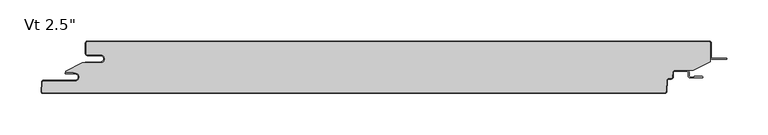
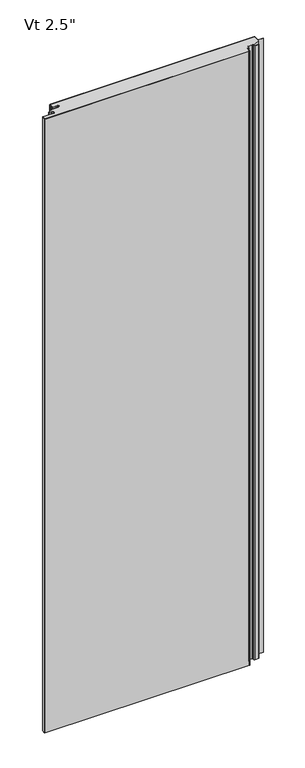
"""IFC4 building model written with IfcOpenShell, lengths in millimetres: plate geometry."""

from ifc_helpers import new_model, si_unit, point, frame, frame_2d, origin, origin_with_axes, place, context, project, spatial, polyline, circle_curve, ellipse_curve, trimmed, segment, composite_curve, outline, extrude, source, transform, mapped, element, save
from ifc_brep_helpers import plane_surface, cylinder_surface, revolved_surface, extruded_surface, advanced_brep


def plate_6fc24e39(model_context):
    return source(origin(), model_context, "Body", "SolidModel", [
        extrude(outline(composite_curve([segment(polyline([(-362.0437502, -16.4625), (-377.9187502, -16.4625)]), True, "CONTINUOUS"), segment(trimmed(circle_curve(frame_2d((-377.9187502, -15.08125)), 1.38125), [point((-377.9187502, -16.4625))], [point((-379.3000002, -15.08125))], False, "CARTESIAN"), True, "CONTINUOUS"), segment(polyline([(-379.3000002, -15.08125), (-379.3000002, -2.38125)]), True, "CONTINUOUS"), segment(trimmed(circle_curve(frame_2d((-377.9187502, -2.38125)), 1.38125), [point((-379.3000002, -2.38125))], [point((-377.9187502, -1.0))], False, "CARTESIAN"), True, "CONTINUOUS"), segment(polyline([(-377.9187502, -1.0), (377.7312498, -1.0)]), True, "CONTINUOUS"), segment(trimmed(circle_curve(frame_2d((377.7312498, -2.38125)), 1.38125), [point((377.7312498, -1.0))], [point((379.1124998, -2.38125))], False, "CARTESIAN"), True, "CONTINUOUS"), segment(polyline([(379.1124998, -2.38125), (379.1124998, -24.9057308), (358.2955432, -35.5125), (335.8540781, -35.5125)]), True, "CONTINUOUS"), segment(trimmed(circle_curve(frame_2d((335.8540781, -38.1)), 2.5875), [point((335.8540781, -35.5125))], [point((333.2701242, -37.9645807))], True, "CARTESIAN"), True, "CONTINUOUS"), segment(polyline([(333.2701242, -37.9645807), (332.9680479, -43.728539)]), True, "CONTINUOUS"), segment(trimmed(circle_curve(frame_2d((331.5886909, -43.65625)), 1.38125), [point((332.9680479, -43.728539))], [point((331.5886909, -45.0375))], False, "CARTESIAN"), True, "CONTINUOUS"), segment(polyline([(331.5886909, -45.0375), (328.5448845, -45.0375)]), True, "CONTINUOUS"), segment(trimmed(circle_curve(frame_2d((328.5448845, -47.625)), 2.5875), [point((328.5448845, -45.0375))], [point((325.9609306, -47.4895807))], True, "CARTESIAN"), True, "CONTINUOUS"), segment(polyline([(325.9609306, -47.4895807), (325.2428676, -61.191039)]), True, "CONTINUOUS"), segment(trimmed(circle_curve(frame_2d((323.8635105, -61.11875)), 1.38125), [point((325.2428676, -61.191039))], [point((323.8635105, -62.5))], False, "CARTESIAN"), True, "CONTINUOUS"), segment(polyline([(323.8635105, -62.5), (-431.7799537, -62.5)]), True, "CONTINUOUS"), segment(trimmed(circle_curve(frame_2d((-431.7799537, -61.11875)), 1.38125), [point((-431.7799537, -62.5))], [point((-433.1593107, -61.046461))], False, "CARTESIAN"), True, "CONTINUOUS"), segment(polyline([(-433.1593107, -61.046461), (-432.5769293, -49.933961)]), True, "CONTINUOUS"), segment(trimmed(circle_curve(frame_2d((-431.1975722, -50.00625)), 1.38125), [point((-432.5769293, -49.933961))], [point((-431.1975722, -48.625))], False, "CARTESIAN"), True, "CONTINUOUS"), segment(polyline([(-431.1975722, -48.625), (-393.0142676, -48.625)]), True, "CONTINUOUS"), segment(trimmed(circle_curve(frame_2d((-393.0142676, -43.65625)), 4.96875), [point((-393.0142676, -48.625))], [point((-393.0142676, -38.6875))], True, "CARTESIAN"), True, "CONTINUOUS"), segment(polyline([(-393.0142676, -38.6875), (-394.6017676, -38.89375), (-394.6017676, -38.1), (-404.1125002, -38.1), (-404.1125002, -36.5326309), (-384.2260924, -26.4), (-362.0437502, -26.4)]), True, "CONTINUOUS"), segment(trimmed(circle_curve(frame_2d((-362.0437502, -21.43125)), 4.96875), [point((-362.0437502, -26.4))], [point((-362.0437502, -16.4625))], True, "CARTESIAN"), True, "CONTINUOUS")], self_intersect=False)), origin_with_axes(), (0.0, 0.0, 1.0), 2400.0),
        extrude(outline(composite_curve([segment(polyline([(-380.3000002, -25.4), (-362.0437502, -25.4)]), True, "CONTINUOUS"), segment(trimmed(circle_curve(frame_2d((-362.0437502, -21.43125)), 3.96875), [point((-362.0437502, -25.4))], [point((-362.0437502, -17.4625))], True, "CARTESIAN"), True, "CONTINUOUS"), segment(polyline([(-362.0437502, -17.4625), (-377.9187502, -17.4625)]), True, "CONTINUOUS"), segment(trimmed(circle_curve(frame_2d((-377.9187502, -15.08125)), 2.38125), [point((-377.9187502, -17.4625))], [point((-380.3000002, -15.08125))], False, "CARTESIAN"), True, "CONTINUOUS"), segment(polyline([(-380.3000002, -15.08125), (-380.3000002, -2.38125)]), True, "CONTINUOUS"), segment(trimmed(circle_curve(frame_2d((-377.9187502, -2.38125)), 2.38125), [point((-380.3000002, -2.38125))], [point((-377.9187502, 0.0))], False, "CARTESIAN"), True, "CONTINUOUS"), segment(polyline([(-377.9187502, 0.0), (377.7312498, 0.0)]), True, "CONTINUOUS"), segment(trimmed(circle_curve(frame_2d((377.7312498, -2.38125)), 2.38125), [point((377.7312498, 0.0))], [point((380.1124998, -2.38125))], False, "CARTESIAN"), True, "CONTINUOUS"), segment(polyline([(380.1124998, -2.38125), (380.1124998, -19.446875)]), True, "CONTINUOUS"), segment(trimmed(circle_curve(frame_2d((381.6999998, -19.446875)), 1.5875), [point((380.1124998, -19.446875))], [point((381.6999998, -21.034375))], True, "CARTESIAN"), True, "CONTINUOUS"), segment(polyline([(381.6999998, -21.034375), (399.1624998, -21.034375), (399.1624998, -22.034375), (381.6999998, -22.034375)]), True, "CONTINUOUS"), segment(trimmed(circle_curve(frame_2d((381.6999998, -19.446875)), 2.5875), [point((381.6999998, -22.034375))], [point((379.1124998, -19.446875))], False, "CARTESIAN"), True, "CONTINUOUS"), segment(polyline([(379.1124998, -19.446875), (379.1124998, -2.38125)]), True, "CONTINUOUS"), segment(trimmed(circle_curve(frame_2d((377.7312498, -2.38125)), 1.38125), [point((379.1124998, -2.38125))], [point((377.7312498, -1.0))], True, "CARTESIAN"), True, "CONTINUOUS"), segment(polyline([(377.7312498, -1.0), (-377.9187502, -1.0)]), True, "CONTINUOUS"), segment(trimmed(circle_curve(frame_2d((-377.9187502, -2.38125)), 1.38125), [point((-377.9187502, -1.0))], [point((-379.3000002, -2.38125))], True, "CARTESIAN"), True, "CONTINUOUS"), segment(polyline([(-379.3000002, -2.38125), (-379.3000002, -15.08125)]), True, "CONTINUOUS"), segment(trimmed(circle_curve(frame_2d((-377.9187502, -15.08125)), 1.38125), [point((-379.3000002, -15.08125))], [point((-377.9187502, -16.4625))], True, "CARTESIAN"), True, "CONTINUOUS"), segment(polyline([(-377.9187502, -16.4625), (-362.0437502, -16.4625)]), True, "CONTINUOUS"), segment(trimmed(circle_curve(frame_2d((-362.0437502, -21.43125)), 4.96875), [point((-362.0437502, -16.4625))], [point((-362.0437502, -26.4))], False, "CARTESIAN"), True, "CONTINUOUS"), segment(polyline([(-362.0437502, -26.4), (-380.3000002, -26.4), (-380.3000002, -25.4)]), True, "CONTINUOUS")], self_intersect=False)), origin_with_axes(), (0.0, 0.0, 1.0), 2400.0),
        advanced_brep(
        [(-404.3252051, -38.1, 2400.0), (-404.3252051, -39.6875, 2400.0), (-393.0142676, -39.6875, 2400.0), (-393.0142676, -47.625, 2400.0), (-431.1975722, -47.625, 2400.0), (-433.5755588, -49.881625, 2400.0), (-434.1579402, -60.994125, 2400.0), (-431.7799537, -63.5, 2400.0), (323.8635105, -63.5, 2400.0), (326.2414971, -61.243375, 2400.0), (326.9595601, -47.5419167, 2400.0), (328.5448845, -46.0375, 2400.0), (331.5886909, -46.0375, 2400.0), (333.9666775, -43.780875, 2400.0), (334.2687537, -38.0169167, 2400.0), (335.8540781, -36.5125, 2400.0), (350.7294824, -36.5125, 2400.0), (352.3169824, -38.1, 2400.0), (352.3169824, -42.2671875, 2400.0), (354.6982324, -44.6484375, 2400.0), (369.189853, -44.6484375, 2400.0), (369.189853, -42.8546875, 2400.0), (359.4607324, -42.8546875, 2400.0), (359.4607324, -43.6484375, 2400.0), (354.6982324, -43.6484375, 2400.0), (353.3169824, -42.2671875, 2400.0), (353.3169824, -38.1, 2400.0), (350.7294824, -35.5125, 2400.0), (335.8540781, -35.5125, 2400.0), (333.2701242, -37.9645807, 2400.0), (332.9680479, -43.728539, 2400.0), (331.5886909, -45.0375, 2400.0), (328.5448845, -45.0375, 2400.0), (325.9609306, -47.4895807, 2400.0), (325.2428676, -61.191039, 2400.0), (323.8635105, -62.5, 2400.0), (-431.7799537, -62.5, 2400.0), (-433.1593107, -61.046461, 2400.0), (-432.5769293, -49.933961, 2400.0), (-431.1975722, -48.625, 2400.0), (-393.0142676, -48.625, 2400.0), (-393.0142676, -38.6875, 2400.0), (-394.6017676, -38.89375, 2400.0), (-394.6017676, -38.1, 2400.0), (-404.3252051, -38.1, 0.0), (-394.6017676, -38.1, 0.0), (-394.6017676, -38.89375, 0.0), (-393.0142676, -38.6875, 0.0), (-393.0142676, -48.625, 0.0), (-431.1975722, -48.625, 0.0), (-432.5769293, -49.933961, 0.0), (-433.1593107, -61.046461, 0.0), (-431.7799537, -62.5, 0.0), (323.8635105, -62.5, 0.0), (325.2428676, -61.191039, 0.0), (325.9609306, -47.4895807, 0.0), (328.5448845, -45.0375, 0.0), (331.5886909, -45.0375, 0.0), (332.9680479, -43.728539, 0.0), (333.2701242, -37.9645807, 0.0), (335.8540781, -35.5125, 0.0), (350.7294824, -35.5125, 0.0), (353.3169824, -38.1, 0.0), (353.3169824, -42.2671875, 0.0), (354.6982324, -43.6484375, 0.0), (359.4607324, -43.6484375, 0.0), (359.4607324, -42.8546875, 0.0), (369.189853, -42.8546875, 0.0), (369.189853, -44.6484375, 0.0), (354.6982324, -44.6484375, 0.0), (352.3169824, -42.2671875, 0.0), (352.3169824, -38.1, 0.0), (350.7294824, -36.5125, 0.0), (335.8540781, -36.5125, 0.0), (334.2687537, -38.0169167, 0.0), (333.9666775, -43.780875, 0.0), (331.5886909, -46.0375, 0.0), (328.5448845, -46.0375, 0.0), (326.9595601, -47.5419167, 0.0), (326.2414971, -61.243375, 0.0), (323.8635105, -63.5, 0.0), (-431.7799537, -63.5, 0.0), (-434.1579402, -60.994125, 0.0), (-433.5755588, -49.881625, 0.0), (-431.1975722, -47.625, 0.0), (-393.0142676, -47.625, 0.0), (-393.0142676, -39.6875, 0.0), (-404.3252051, -39.6875, 0.0)],
        [
            (0, 1, circle_curve(frame((-404.3252051, -38.89375, 2400.0), z_axis=(0.0, 0.0, 1.0), x_axis=(1.0, 0.0, 0.0)), 0.79375)),
            (1, 2),
            (2, 3, circle_curve(frame((-393.0142676, -43.65625, 2400.0), z_axis=(0.0, 0.0, -1.0), x_axis=(1.0, 0.0, 0.0)), 3.96875)),
            (3, 4),
            (4, 5, circle_curve(frame((-431.1975722, -50.00625, 2400.0), z_axis=(0.0, 0.0, 1.0), x_axis=(1.0, 0.0, 0.0)), 2.38125)),
            (5, 6),
            (6, 7, circle_curve(frame((-431.7799537, -61.11875, 2400.0), z_axis=(0.0, 0.0, 1.0), x_axis=(1.0, 0.0, 0.0)), 2.38125)),
            (7, 8),
            (8, 9, circle_curve(frame((323.8635105, -61.11875, 2400.0), z_axis=(0.0, 0.0, 1.0), x_axis=(1.0, 0.0, 0.0)), 2.38125)),
            (9, 10),
            (10, 11, circle_curve(frame((328.5448845, -47.625, 2400.0), z_axis=(0.0, 0.0, -1.0), x_axis=(1.0, 0.0, 0.0)), 1.5875)),
            (11, 12),
            (12, 13, circle_curve(frame((331.5886909, -43.65625, 2400.0), z_axis=(0.0, 0.0, 1.0), x_axis=(1.0, 0.0, 0.0)), 2.38125)),
            (13, 14),
            (14, 15, circle_curve(frame((335.8540781, -38.1, 2400.0), z_axis=(0.0, 0.0, -1.0), x_axis=(1.0, 0.0, 0.0)), 1.5875)),
            (15, 16),
            (16, 17, circle_curve(frame((350.7294824, -38.1, 2400.0), z_axis=(0.0, 0.0, -1.0), x_axis=(1.0, 0.0, 0.0)), 1.5875)),
            (17, 18),
            (18, 19, circle_curve(frame((354.6982324, -42.2671875, 2400.0), z_axis=(0.0, 0.0, 1.0), x_axis=(1.0, 0.0, 0.0)), 2.38125)),
            (19, 20),
            (20, 21, ellipse_curve(frame((369.189853, -43.7515625, 2400.0), z_axis=(0.0, 0.0, 1.0), x_axis=(0.0, 1.0, 0.0)), 0.896875, 0.7852275)),
            (21, 22),
            (22, 23),
            (23, 24),
            (24, 25, circle_curve(frame((354.6982324, -42.2671875, 2400.0), z_axis=(0.0, 0.0, -1.0), x_axis=(1.0, 0.0, 0.0)), 1.38125)),
            (25, 26),
            (26, 27, circle_curve(frame((350.7294824, -38.1, 2400.0), z_axis=(0.0, 0.0, 1.0), x_axis=(1.0, 0.0, 0.0)), 2.5875)),
            (27, 28),
            (28, 29, circle_curve(frame((335.8540781, -38.1, 2400.0), z_axis=(0.0, 0.0, 1.0), x_axis=(1.0, 0.0, 0.0)), 2.5875)),
            (29, 30),
            (30, 31, circle_curve(frame((331.5886909, -43.65625, 2400.0), z_axis=(0.0, 0.0, -1.0), x_axis=(1.0, 0.0, 0.0)), 1.38125)),
            (31, 32),
            (32, 33, circle_curve(frame((328.5448845, -47.625, 2400.0), z_axis=(0.0, 0.0, 1.0), x_axis=(1.0, 0.0, 0.0)), 2.5875)),
            (33, 34),
            (34, 35, circle_curve(frame((323.8635105, -61.11875, 2400.0), z_axis=(0.0, 0.0, -1.0), x_axis=(1.0, 0.0, 0.0)), 1.38125)),
            (35, 36),
            (36, 37, circle_curve(frame((-431.7799537, -61.11875, 2400.0), z_axis=(0.0, 0.0, -1.0), x_axis=(1.0, 0.0, 0.0)), 1.38125)),
            (37, 38),
            (38, 39, circle_curve(frame((-431.1975722, -50.00625, 2400.0), z_axis=(0.0, 0.0, -1.0), x_axis=(1.0, 0.0, 0.0)), 1.38125)),
            (39, 40),
            (40, 41, circle_curve(frame((-393.0142676, -43.65625, 2400.0), z_axis=(0.0, 0.0, 1.0), x_axis=(1.0, 0.0, 0.0)), 4.96875)),
            (41, 42),
            (42, 43),
            (43, 0),
            (44, 45),
            (45, 46),
            (46, 47),
            (47, 48, circle_curve(frame((-393.0142676, -43.65625, 0.0), z_axis=(0.0, 0.0, -1.0), x_axis=(1.0, 0.0, 0.0)), 4.96875)),
            (48, 49),
            (49, 50, circle_curve(frame((-431.1975722, -50.00625, 0.0), z_axis=(0.0, 0.0, 1.0), x_axis=(1.0, 0.0, 0.0)), 1.38125)),
            (50, 51),
            (51, 52, circle_curve(frame((-431.7799537, -61.11875, 0.0), z_axis=(0.0, 0.0, 1.0), x_axis=(1.0, 0.0, 0.0)), 1.38125)),
            (52, 53),
            (53, 54, circle_curve(frame((323.8635105, -61.11875, 0.0), z_axis=(0.0, 0.0, 1.0), x_axis=(1.0, 0.0, 0.0)), 1.38125)),
            (54, 55),
            (55, 56, circle_curve(frame((328.5448845, -47.625, 0.0), z_axis=(0.0, 0.0, -1.0), x_axis=(1.0, 0.0, 0.0)), 2.5875)),
            (56, 57),
            (57, 58, circle_curve(frame((331.5886909, -43.65625, 0.0), z_axis=(0.0, 0.0, 1.0), x_axis=(1.0, 0.0, 0.0)), 1.38125)),
            (58, 59),
            (59, 60, circle_curve(frame((335.8540781, -38.1, 0.0), z_axis=(0.0, 0.0, -1.0), x_axis=(1.0, 0.0, 0.0)), 2.5875)),
            (60, 61),
            (61, 62, circle_curve(frame((350.7294824, -38.1, 0.0), z_axis=(0.0, 0.0, -1.0), x_axis=(1.0, 0.0, 0.0)), 2.5875)),
            (62, 63),
            (63, 64, circle_curve(frame((354.6982324, -42.2671875, 0.0), z_axis=(0.0, 0.0, 1.0), x_axis=(1.0, 0.0, 0.0)), 1.38125)),
            (64, 65),
            (65, 66),
            (66, 67),
            (67, 68, ellipse_curve(frame((369.189853, -43.7515625, 0.0), z_axis=(0.0, 0.0, -1.0), x_axis=(0.0, 1.0, 0.0)), 0.896875, 0.7852275)),
            (68, 69),
            (69, 70, circle_curve(frame((354.6982324, -42.2671875, 0.0), z_axis=(0.0, 0.0, -1.0), x_axis=(1.0, 0.0, 0.0)), 2.38125)),
            (70, 71),
            (71, 72, circle_curve(frame((350.7294824, -38.1, 0.0), z_axis=(0.0, 0.0, 1.0), x_axis=(1.0, 0.0, 0.0)), 1.5875)),
            (72, 73),
            (73, 74, circle_curve(frame((335.8540781, -38.1, 0.0), z_axis=(0.0, 0.0, 1.0), x_axis=(1.0, 0.0, 0.0)), 1.5875)),
            (74, 75),
            (75, 76, circle_curve(frame((331.5886909, -43.65625, 0.0), z_axis=(0.0, 0.0, -1.0), x_axis=(1.0, 0.0, 0.0)), 2.38125)),
            (76, 77),
            (77, 78, circle_curve(frame((328.5448845, -47.625, 0.0), z_axis=(0.0, 0.0, 1.0), x_axis=(1.0, 0.0, 0.0)), 1.5875)),
            (78, 79),
            (79, 80, circle_curve(frame((323.8635105, -61.11875, 0.0), z_axis=(0.0, 0.0, -1.0), x_axis=(1.0, 0.0, 0.0)), 2.38125)),
            (80, 81),
            (81, 82, circle_curve(frame((-431.7799537, -61.11875, 0.0), z_axis=(0.0, 0.0, -1.0), x_axis=(1.0, 0.0, 0.0)), 2.38125)),
            (82, 83),
            (83, 84, circle_curve(frame((-431.1975722, -50.00625, 0.0), z_axis=(0.0, 0.0, -1.0), x_axis=(1.0, 0.0, 0.0)), 2.38125)),
            (84, 85),
            (85, 86, circle_curve(frame((-393.0142676, -43.65625, 0.0), z_axis=(0.0, 0.0, 1.0), x_axis=(1.0, 0.0, 0.0)), 3.96875)),
            (86, 87),
            (87, 44, circle_curve(frame((-404.3252051, -38.89375, 0.0), z_axis=(0.0, 0.0, -1.0), x_axis=(1.0, 0.0, 0.0)), 0.79375)),
            (20, 68),
            (67, 21),
            (66, 22),
            (65, 23),
            (41, 47),
            (46, 42),
            (45, 43),
            (40, 48),
            (39, 49),
            (38, 50),
            (37, 51),
            (33, 55),
            (54, 34),
            (32, 56),
            (31, 57),
            (30, 58),
            (29, 59),
            (28, 60),
            (64, 24),
            (63, 25),
            (62, 26),
            (61, 27),
            (18, 70),
            (69, 19),
            (17, 71),
            (16, 72),
            (15, 73),
            (14, 74),
            (13, 75),
            (12, 76),
            (11, 77),
            (10, 78),
            (9, 79),
            (5, 83),
            (82, 6),
            (4, 84),
            (3, 85),
            (2, 86),
            (1, 87),
            (0, 44),
            (36, 52),
            (35, 53),
            (8, 80),
            (7, 81),
        ],
        [
            plane_surface(frame((-0.0937502, -63.5, 2400.0), z_axis=(0.0, 0.0, 1.0), x_axis=(0.0, -1.0, 0.0))),
            plane_surface(frame((-0.0937502, -63.5, 0.0), z_axis=(0.0, 0.0, -1.0), x_axis=(0.0, -1.0, 0.0))),
            extruded_surface(trimmed(ellipse_curve(frame((369.189853, -43.7515625, 2400.0), z_axis=(0.0, 0.0, -1.0), x_axis=(0.0, 1.0, 0.0)), 0.896875, 0.7852275), [point((369.189853, -42.8546875, 2400.0))], [point((369.189853, -44.6484375, 2400.0))], True, "CARTESIAN"), (0.0, 0.0, -2400.0), 2400.0),
            plane_surface(frame((359.4607324, -42.8546875, 2400.0), z_axis=(0.0, 1.0, 0.0), x_axis=(0.0, 0.0, -1.0))),
            plane_surface(frame((359.4607324, -43.6484375, 2400.0), z_axis=(-1.0, 0.0, 0.0), x_axis=(0.0, 0.0, -1.0))),
            plane_surface(frame((-394.6017676, -38.89375, 2400.0), z_axis=(-0.12883844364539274, 0.9916655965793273, 0.0), x_axis=(0.0, 0.0, -1.0))),
            plane_surface(frame((-394.6017676, -38.1, 2400.0), z_axis=(1.0, 0.0, 0.0), x_axis=(0.0, 0.0, -1.0))),
            cylinder_surface(frame((-393.0142676, -43.65625, 2400.0), z_axis=(0.0, 0.0, 1.0), x_axis=(1.0, 0.0, 0.0)), 4.96875),
            plane_surface(frame((-393.0142676, -48.625, 2400.0), z_axis=(0.0, -1.0, 0.0), x_axis=(0.0, 0.0, -1.0))),
            revolved_surface(polyline([(-429.8163222, -50.00625, 0.0), (-429.8163222, -50.00625, 2400.0)]), (-431.1975722, -50.00625, 2400.0), (0.0, 0.0, -1.0)),
            plane_surface(frame((-432.5769293, -49.933961, 2400.0), z_axis=(0.9986295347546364, -0.05233595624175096, 0.0), x_axis=(0.0, 0.0, -1.0))),
            plane_surface(frame((325.2428676, -61.191039, 2400.0), z_axis=(-0.9986295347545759, 0.05233595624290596, 0.0), x_axis=(0.0, 0.0, -1.0))),
            cylinder_surface(frame((328.5448845, -47.625, 2400.0), z_axis=(0.0, 0.0, 1.0), x_axis=(1.0, 0.0, 0.0)), 2.5875),
            plane_surface(frame((328.5448845, -45.0375, 2400.0), z_axis=(0.0, 1.0, 0.0), x_axis=(0.0, 0.0, -1.0))),
            revolved_surface(polyline([(332.96994090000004, -43.65625, 0.0), (332.96994090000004, -43.65625, 2400.0)]), (331.5886909, -43.65625, 2400.0), (0.0, 0.0, -1.0)),
            plane_surface(frame((332.9680479, -43.728539, 2400.0), z_axis=(-0.998629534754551, 0.05233595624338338, 0.0), x_axis=(0.0, 0.0, -1.0))),
            cylinder_surface(frame((335.8540781, -38.1, 2400.0), z_axis=(0.0, 0.0, 1.0), x_axis=(1.0, 0.0, 0.0)), 2.5875),
            plane_surface(frame((354.6982324, -43.6484375, 2400.0), z_axis=(0.0, 1.0, 0.0), x_axis=(0.0, 0.0, -1.0))),
            revolved_surface(polyline([(356.0794824, -42.2671875, 0.0), (356.0794824, -42.2671875, 2400.0)]), (354.6982324, -42.2671875, 2400.0), (0.0, 0.0, -1.0)),
            plane_surface(frame((353.3169824, -38.1, 2400.0), z_axis=(1.0, 0.0, 0.0), x_axis=(0.0, 0.0, -1.0))),
            cylinder_surface(frame((350.7294824, -38.1, 2400.0), z_axis=(0.0, 0.0, 1.0), x_axis=(1.0, 0.0, 0.0)), 2.5875),
            plane_surface(frame((335.8540781, -35.5125, 2400.0), z_axis=(0.0, 1.0, 0.0), x_axis=(0.0, 0.0, -1.0))),
            cylinder_surface(frame((354.6982324, -42.2671875, 2400.0), z_axis=(0.0, 0.0, 1.0), x_axis=(1.0, 0.0, 0.0)), 2.38125),
            plane_surface(frame((352.3169824, -42.2671875, 2400.0), z_axis=(-1.0, 0.0, 0.0), x_axis=(0.0, 0.0, -1.0))),
            revolved_surface(polyline([(352.3169824, -38.1, 0.0), (352.3169824, -38.1, 2400.0)]), (350.7294824, -38.1, 2400.0), (0.0, 0.0, -1.0)),
            plane_surface(frame((350.7294824, -36.5125, 2400.0), z_axis=(0.0, -1.0, 0.0), x_axis=(0.0, 0.0, -1.0))),
            revolved_surface(polyline([(337.44157809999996, -38.1, 0.0), (337.44157809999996, -38.1, 2400.0)]), (335.8540781, -38.1, 2400.0), (0.0, 0.0, -1.0)),
            plane_surface(frame((334.2687537, -38.0169167, 2400.0), z_axis=(0.9986295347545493, -0.05233595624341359, 0.0), x_axis=(0.0, 0.0, -1.0))),
            cylinder_surface(frame((331.5886909, -43.65625, 2400.0), z_axis=(0.0, 0.0, 1.0), x_axis=(1.0, 0.0, 0.0)), 2.38125),
            plane_surface(frame((331.5886909, -46.0375, 2400.0), z_axis=(0.0, -1.0, 0.0), x_axis=(0.0, 0.0, -1.0))),
            revolved_surface(polyline([(330.1323845, -47.625, 0.0), (330.1323845, -47.625, 2400.0)]), (328.5448845, -47.625, 2400.0), (0.0, 0.0, -1.0)),
            plane_surface(frame((326.9595601, -47.5419167, 2400.0), z_axis=(0.9986295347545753, -0.052335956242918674, 0.0), x_axis=(0.0, 0.0, -1.0))),
            plane_surface(frame((-434.1579402, -60.994125, 2400.0), z_axis=(-0.9986295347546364, 0.05233595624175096, 0.0), x_axis=(0.0, 0.0, -1.0))),
            cylinder_surface(frame((-431.1975722, -50.00625, 2400.0), z_axis=(0.0, 0.0, 1.0), x_axis=(1.0, 0.0, 0.0)), 2.38125),
            plane_surface(frame((-431.1975722, -47.625, 2400.0), z_axis=(0.0, 1.0, 0.0), x_axis=(0.0, 0.0, -1.0))),
            revolved_surface(polyline([(-389.0455176, -43.65625, 0.0), (-389.0455176, -43.65625, 2400.0)]), (-393.0142676, -43.65625, 2400.0), (0.0, 0.0, -1.0)),
            plane_surface(frame((-393.0142676, -39.6875, 2400.0), z_axis=(0.0, -1.0, 0.0), x_axis=(0.0, 0.0, -1.0))),
            cylinder_surface(frame((-404.3252051, -38.89375, 2400.0), z_axis=(0.0, 0.0, 1.0), x_axis=(1.0, 0.0, 0.0)), 0.79375),
            plane_surface(frame((-404.3252051, -38.1, 2400.0), z_axis=(0.0, 1.0, 0.0), x_axis=(0.0, 0.0, -1.0))),
            revolved_surface(polyline([(-430.3987037, -61.11875, 0.0), (-430.3987037, -61.11875, 2400.0)]), (-431.7799537, -61.11875, 2400.0), (0.0, 0.0, -1.0)),
            plane_surface(frame((-431.7799537, -62.5, 2400.0), z_axis=(0.0, 1.0, 0.0), x_axis=(0.0, 0.0, -1.0))),
            revolved_surface(polyline([(325.24476050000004, -61.11875, 0.0), (325.24476050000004, -61.11875, 2400.0)]), (323.8635105, -61.11875, 2400.0), (0.0, 0.0, -1.0)),
            plane_surface(frame((369.189853, -44.6484375, 2400.0), z_axis=(0.0, -1.0, 0.0), x_axis=(0.0, 0.0, -1.0))),
            cylinder_surface(frame((323.8635105, -61.11875, 2400.0), z_axis=(0.0, 0.0, 1.0), x_axis=(1.0, 0.0, 0.0)), 2.38125),
            plane_surface(frame((323.8635105, -63.5, 2400.0), z_axis=(0.0, -1.0, 0.0), x_axis=(0.0, 0.0, -1.0))),
            cylinder_surface(frame((-431.7799537, -61.11875, 2400.0), z_axis=(0.0, 0.0, 1.0), x_axis=(1.0, 0.0, 0.0)), 2.38125),
        ],
        [
            (0, [[1, 2, 3, 4, 5, 6, 7, 8, 9, 10, 11, 12, 13, 14, 15, 16, 17, 18, 19, 20, 21, 22, 23, 24, 25, 26, 27, 28, 29, 30, 31, 32, 33, 34, 35, 36, 37, 38, 39, 40, 41, 42, 43, 44]]),
            (1, [[45, 46, 47, 48, 49, 50, 51, 52, 53, 54, 55, 56, 57, 58, 59, 60, 61, 62, 63, 64, 65, 66, 67, 68, 69, 70, 71, 72, 73, 74, 75, 76, 77, 78, 79, 80, 81, 82, 83, 84, 85, 86, 87, 88]]),
            (2, [[89, -68, 90, -21]]),
            (3, [[-90, -67, 91, -22]]),
            (4, [[-91, -66, 92, -23]]),
            (5, [[93, -47, 94, -42]]),
            (6, [[-94, -46, 95, -43]]),
            (7, [[96, -48, -93, -41]]),
            (8, [[97, -49, -96, -40]]),
            (9, [[98, -50, -97, -39]]),
            (10, [[99, -51, -98, -38]]),
            (11, [[100, -55, 101, -34]]),
            (12, [[102, -56, -100, -33]]),
            (13, [[103, -57, -102, -32]]),
            (14, [[104, -58, -103, -31]]),
            (15, [[105, -59, -104, -30]]),
            (16, [[106, -60, -105, -29]]),
            (17, [[-92, -65, 107, -24]]),
            (18, [[-107, -64, 108, -25]]),
            (19, [[-108, -63, 109, -26]]),
            (20, [[-109, -62, 110, -27]]),
            (21, [[-110, -61, -106, -28]]),
            (22, [[111, -70, 112, -19]]),
            (23, [[113, -71, -111, -18]]),
            (24, [[114, -72, -113, -17]]),
            (25, [[115, -73, -114, -16]]),
            (26, [[116, -74, -115, -15]]),
            (27, [[117, -75, -116, -14]]),
            (28, [[118, -76, -117, -13]]),
            (29, [[119, -77, -118, -12]]),
            (30, [[120, -78, -119, -11]]),
            (31, [[121, -79, -120, -10]]),
            (32, [[122, -83, 123, -6]]),
            (33, [[124, -84, -122, -5]]),
            (34, [[125, -85, -124, -4]]),
            (35, [[126, -86, -125, -3]]),
            (36, [[127, -87, -126, -2]]),
            (37, [[128, -88, -127, -1]]),
            (38, [[-95, -45, -128, -44]]),
            (39, [[129, -52, -99, -37]]),
            (40, [[130, -53, -129, -36]]),
            (41, [[-101, -54, -130, -35]]),
            (42, [[-112, -69, -89, -20]]),
            (43, [[131, -80, -121, -9]]),
            (44, [[132, -81, -131, -8]]),
            (45, [[-123, -82, -132, -7]]),
        ],
    ),
    ])


if __name__ == "__main__":
    model = new_model("IFC4")
    model_context = context("Model", 3, world=origin())
    ifc_project = project(units=[si_unit("LENGTHUNIT", "METRE", prefix="MILLI")], contexts=[model_context])
    site = spatial("IfcSite", under=ifc_project)
    building = spatial("IfcBuilding", under=site)
    placement = place(None, origin())
    plate_shape = plate_6fc24e39(model_context)
    element("IfcPlate", 1, ObjectType="KIP-30-DWTR-R19-CP-Vt-F : Vt 2.5\"", at=placement, inside=building, context=model_context, shape_type="MappedRepresentation", body=[
        mapped(plate_shape, transform((0.0, 0.0, 0.0), x_axis=(1.0, 0.0, 0.0), y_axis=(0.0, 1.0, 0.0), z_axis=(0.0, 0.0, 1.0))),
    ])
    save(model, "model.ifc")
